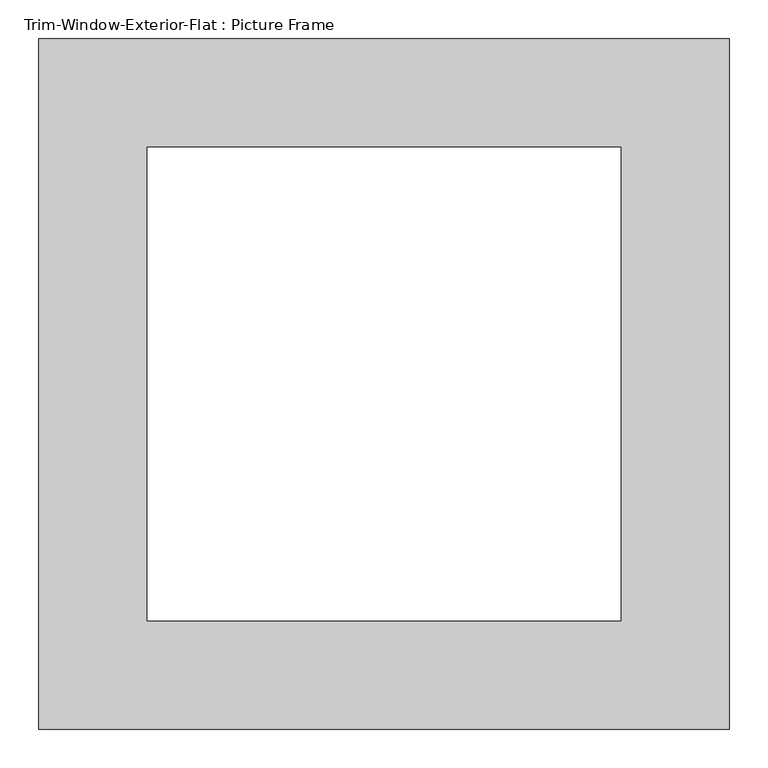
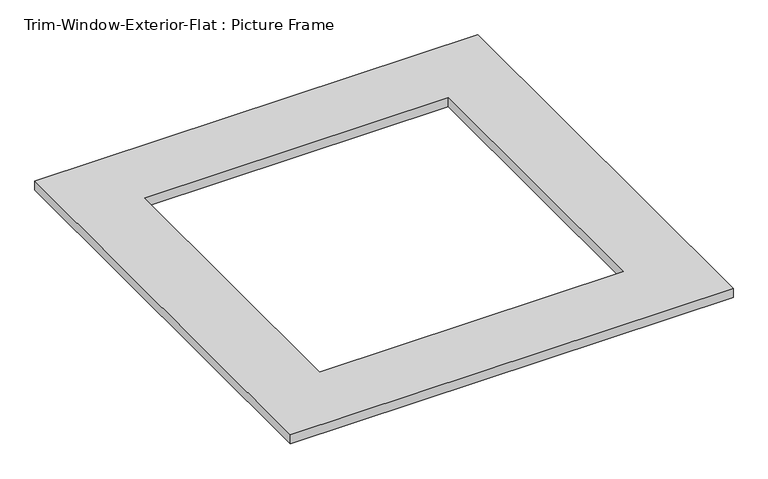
"""IFC4 building model written with IfcOpenShell, lengths in millimetres: proxy geometry, Trim-Window-Exterior-Flat : Picture Frame."""

from ifc_helpers import new_model, si_unit, origin, origin_with_axes, place, context, project, spatial, polyline, outline, extrude, source, transform, mapped, element, save


def trim_window_exterior_flat_picture_frame_8815b321(model_context):
    return source(origin(), model_context, "Body", "SweptSolid", [
        extrude(outline(polyline([(444.5, 139.7), (444.5, -749.3), (-444.5, -749.3), (-444.5, 139.7), (444.5, 139.7)]), holes=[polyline([(304.8, 0.0), (-304.8, 0.0), (-304.8, -609.6), (304.8, -609.6), (304.8, 0.0)])]), origin_with_axes(), (0.0, 0.0, 1.0), 19.05),
    ])


if __name__ == "__main__":
    model = new_model("IFC4")
    model_context = context("Model", 3, world=origin())
    ifc_project = project(units=[si_unit("LENGTHUNIT", "METRE", prefix="MILLI")], contexts=[model_context])
    site = spatial("IfcSite", under=ifc_project)
    building = spatial("IfcBuilding", under=site)
    placement = place(None, origin())
    trim_window_exterior_flat_picture_frame_shape = trim_window_exterior_flat_picture_frame_8815b321(model_context)
    element("IfcBuildingElementProxy", 1, Name="Trim-Window-Exterior-Flat : Picture Frame", ObjectType="Trim-Window-Exterior-Flat : Picture Frame", at=placement, inside=building, context=model_context, shape_type="MappedRepresentation", body=[
        mapped(trim_window_exterior_flat_picture_frame_shape, transform((0.0, 0.0, 0.0), x_axis=(1.0, 0.0, 0.0), y_axis=(0.0, 1.0, 0.0), z_axis=(0.0, 0.0, 1.0))),
    ])
    save(model, "model.ifc")
